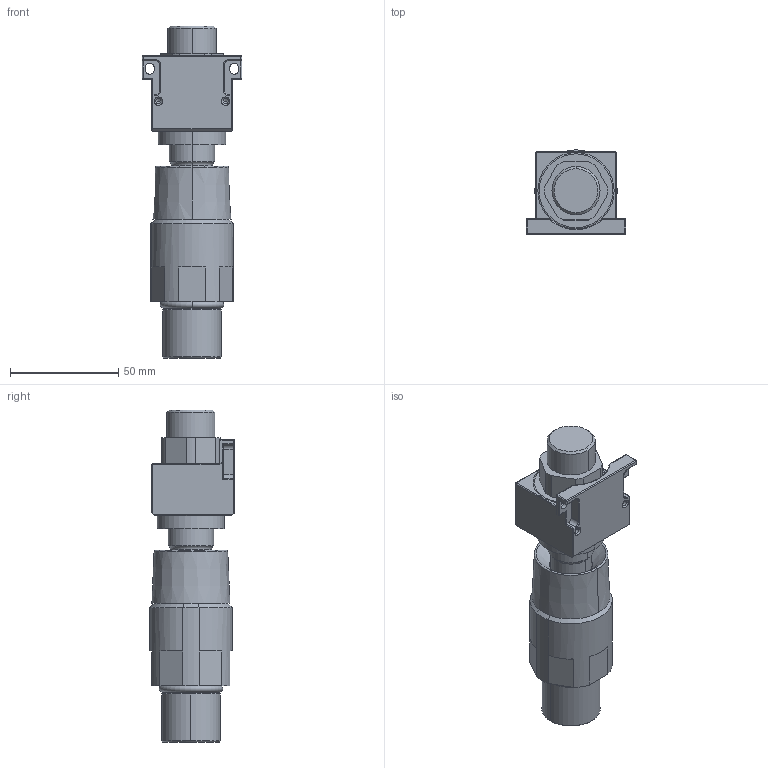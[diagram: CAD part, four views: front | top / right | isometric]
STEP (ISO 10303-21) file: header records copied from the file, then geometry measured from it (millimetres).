
FILE_DESCRIPTION((''),'2;1');
FILE_NAME('PBMC_MATED_ASSY_SPEC_ASM','2026-03-18T12:49:05',('gpcharest'),(''),'CREO PARAMETRIC BY PTC INC, 2025234','CREO PARAMETRIC BY PTC INC, 2025234','');
FILE_SCHEMA(('CONFIG_CONTROL_DESIGN'));
Length unit declared in the file: millimetre
Products named in the file (9): PBMC_SOCKET_BASE_SPEC; PBMC_SOCKET_CONE_SPEC; PBMC_SOCKET_SPEC_ASM; PBMC_PLUG_CUP_SPEC; PBMC_PLUG_ROTATE_SPEC; PBMC_PLUG_BLOCK_SPEC; PBMC_PLUG_SWIVEL_OP-E_SPEC; PBMC_PLUG_ASSY_SPEC_ASM; PBMC_MATED_ASSY_SPEC_ASM
Assembly tree (8 placements, depth 3):
  PBMC_MATED_ASSY_SPEC_ASM
    PBMC_SOCKET_SPEC_ASM
      PBMC_SOCKET_BASE_SPEC
      PBMC_SOCKET_CONE_SPEC
    PBMC_PLUG_ASSY_SPEC_ASM
      PBMC_PLUG_CUP_SPEC
      PBMC_PLUG_ROTATE_SPEC
      PBMC_PLUG_BLOCK_SPEC
      PBMC_PLUG_SWIVEL_OP-E_SPEC
Bounding box: 46 x 39 x 153.2 mm (x, y, z)
Volume: 118353.8 mm3; surface area: 45578.8 mm2
Topology: 10 solids, 11 shells, 286 faces, 625 edges, 365 vertices
Faces by surface type: cylinder 112, plane 78, cone 45, torus 35, sphere 16
Entity records: 8030 total; most frequent: DIRECTION 1544, CARTESIAN_POINT 1359, ORIENTED_EDGE 1234, AXIS2_PLACEMENT_3D 631, EDGE_CURVE 617, VERTEX_POINT 365, CIRCLE 322, EDGE_LOOP 312
